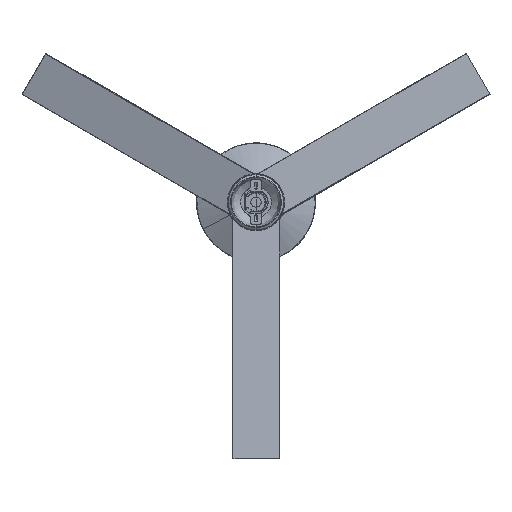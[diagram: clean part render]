
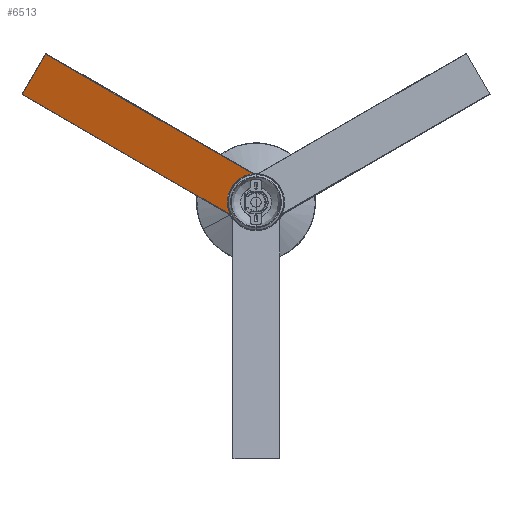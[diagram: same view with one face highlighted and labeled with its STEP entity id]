
A CAD part, top view. The second image highlights one B-rep face of the part: STEP entity #6513.
In plain terms, the highlighted planar face has unit normal (-0.113, -0.195, 0.974).
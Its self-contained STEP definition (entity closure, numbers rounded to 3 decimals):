
#1269=FACE_BOUND('',#8008,.T.);
#1270=FACE_BOUND('',#8009,.T.);
#1271=FACE_BOUND('',#8010,.T.);
#6513=ADVANCED_FACE('',(#7257,#1269,#1270,#1271),#23692,.T.);
#7257=FACE_OUTER_BOUND('',#8007,.T.);
#8007=EDGE_LOOP('',(#8908,#8909,#8910,#8911,#8912,#8913));
#8008=EDGE_LOOP('',(#8914,#8915));
#8009=EDGE_LOOP('',(#8916,#8917));
#8010=EDGE_LOOP('',(#8918,#8919));
#8908=ORIENTED_EDGE('',*,*,#12940,.T.);
#8909=ORIENTED_EDGE('',*,*,#12941,.T.);
#8910=ORIENTED_EDGE('',*,*,#12942,.T.);
#8911=ORIENTED_EDGE('',*,*,#12921,.T.);
#8912=ORIENTED_EDGE('',*,*,#12943,.T.);
#8913=ORIENTED_EDGE('',*,*,#12944,.T.);
#8914=ORIENTED_EDGE('',*,*,#12937,.T.);
#8915=ORIENTED_EDGE('',*,*,#12938,.T.);
#8916=ORIENTED_EDGE('',*,*,#12931,.T.);
#8917=ORIENTED_EDGE('',*,*,#12932,.T.);
#8918=ORIENTED_EDGE('',*,*,#12925,.T.);
#8919=ORIENTED_EDGE('',*,*,#12926,.T.);
#12921=EDGE_CURVE('',#20509,#20511,#16330,.T.);
#12925=EDGE_CURVE('',#20513,#20515,#16332,.T.);
#12926=EDGE_CURVE('',#20515,#20513,#16333,.T.);
#12931=EDGE_CURVE('',#20517,#20519,#16336,.T.);
#12932=EDGE_CURVE('',#20519,#20517,#16337,.T.);
#12937=EDGE_CURVE('',#20521,#20523,#16340,.T.);
#12938=EDGE_CURVE('',#20523,#20521,#16341,.T.);
#12940=EDGE_CURVE('',#20524,#20525,#18075,.T.);
#12941=EDGE_CURVE('',#20525,#20526,#18076,.T.);
#12942=EDGE_CURVE('',#20526,#20509,#18077,.T.);
#12943=EDGE_CURVE('',#20511,#20527,#18078,.T.);
#12944=EDGE_CURVE('',#20527,#20524,#18079,.T.);
#16330=TRIMMED_CURVE($,#17197,(#28649),(#28650),.T.,.CARTESIAN.);
#16332=TRIMMED_CURVE($,#17199,(#28659),(#28660),.T.,.CARTESIAN.);
#16333=TRIMMED_CURVE($,#17200,(#28662),(#28663),.T.,.CARTESIAN.);
#16336=TRIMMED_CURVE($,#17203,(#28675),(#28676),.T.,.CARTESIAN.);
#16337=TRIMMED_CURVE($,#17204,(#28678),(#28679),.T.,.CARTESIAN.);
#16340=TRIMMED_CURVE($,#17207,(#28691),(#28692),.T.,.CARTESIAN.);
#16341=TRIMMED_CURVE($,#17208,(#28694),(#28695),.T.,.CARTESIAN.);
#17197=CIRCLE('',#24511,53.78);
#17199=CIRCLE('',#24513,2.5);
#17200=CIRCLE('',#24514,2.5);
#17203=CIRCLE('',#24517,2.5);
#17204=CIRCLE('',#24518,2.5);
#17207=CIRCLE('',#24521,2.5);
#17208=CIRCLE('',#24522,2.5);
#18075=B_SPLINE_CURVE_WITH_KNOTS('',1,(#28699,#28700),.UNSPECIFIED.,.F.,
 .F.,(2,2),(0.,123.),.UNSPECIFIED.);
#18076=B_SPLINE_CURVE_WITH_KNOTS('',1,(#28701,#28702),.UNSPECIFIED.,.F.,
 .F.,(2,2),(0.,630.),.UNSPECIFIED.);
#18077=B_SPLINE_CURVE_WITH_KNOTS('',1,(#28703,#28704),.UNSPECIFIED.,.F.,
 .F.,(2,2),(0.,16.315),.UNSPECIFIED.);
#18078=B_SPLINE_CURVE_WITH_KNOTS('',1,(#28705,#28706),.UNSPECIFIED.,.F.,
 .F.,(2,2),(0.,14.435),.UNSPECIFIED.);
#18079=B_SPLINE_CURVE_WITH_KNOTS('',1,(#28707,#28708),.UNSPECIFIED.,.F.,
 .F.,(2,2),(0.,630.),.UNSPECIFIED.);
#20509=VERTEX_POINT('',#28610);
#20511=VERTEX_POINT('',#28612);
#20513=VERTEX_POINT('',#28614);
#20515=VERTEX_POINT('',#28616);
#20517=VERTEX_POINT('',#28618);
#20519=VERTEX_POINT('',#28620);
#20521=VERTEX_POINT('',#28622);
#20523=VERTEX_POINT('',#28624);
#20524=VERTEX_POINT('',#28625);
#20525=VERTEX_POINT('',#28626);
#20526=VERTEX_POINT('',#28627);
#20527=VERTEX_POINT('',#28628);
#23692=PLANE('',#24499);
#24499=AXIS2_PLACEMENT_3D('',#28598,#26072,$);
#24511=AXIS2_PLACEMENT_3D($,#28648,#26085,#26086);
#24513=AXIS2_PLACEMENT_3D($,#28658,#26089,#26090);
#24514=AXIS2_PLACEMENT_3D($,#28661,#26091,#26092);
#24517=AXIS2_PLACEMENT_3D($,#28674,#26097,#26098);
#24518=AXIS2_PLACEMENT_3D($,#28677,#26099,#26100);
#24521=AXIS2_PLACEMENT_3D($,#28690,#26105,#26106);
#24522=AXIS2_PLACEMENT_3D($,#28693,#26107,#26108);
#26072=DIRECTION('',(-0.112,-0.195,0.974));
#26085=DIRECTION('',(0.112,0.195,-0.974));
#26086=DIRECTION('',(-0.863,-0.467,-0.193));
#26089=DIRECTION('',(0.112,0.195,-0.974));
#26090=DIRECTION('',(0.487,0.844,0.225));
#26091=DIRECTION('',(0.112,0.195,-0.974));
#26092=DIRECTION('',(-0.487,-0.844,-0.225));
#26097=DIRECTION('',(0.112,0.195,-0.974));
#26098=DIRECTION('',(0.487,0.844,0.225));
#26099=DIRECTION('',(0.112,0.195,-0.974));
#26100=DIRECTION('',(-0.487,-0.844,-0.225));
#26105=DIRECTION('',(0.112,0.195,-0.974));
#26106=DIRECTION('',(0.487,0.844,0.225));
#26107=DIRECTION('',(0.112,0.195,-0.974));
#26108=DIRECTION('',(-0.487,-0.844,-0.225));
#28598=CARTESIAN_POINT('',(5779.687,-10619.52,-19.706));
#28610=CARTESIAN_POINT('',(6603.344,-10703.782,58.525));
#28612=CARTESIAN_POINT('',(6648.287,-10625.938,79.277));
#28614=CARTESIAN_POINT('',(6634.755,-10614.806,79.941));
#28616=CARTESIAN_POINT('',(6632.319,-10619.026,78.816));
#28618=CARTESIAN_POINT('',(6595.109,-10644.021,69.523));
#28620=CARTESIAN_POINT('',(6592.674,-10648.24,68.398));
#28622=CARTESIAN_POINT('',(6589.8,-10692.915,59.135));
#28624=CARTESIAN_POINT('',(6587.364,-10697.134,58.01));
#28625=CARTESIAN_POINT('',(6109.723,-10298.757,82.524));
#28626=CARTESIAN_POINT('',(6049.8,-10402.548,54.855));
#28627=CARTESIAN_POINT('',(6595.396,-10717.548,54.855));
#28628=CARTESIAN_POINT('',(6655.319,-10613.757,82.524));
#28648=CARTESIAN_POINT('',(6649.765,-10678.688,68.901));
#28649=CARTESIAN_POINT('',(6603.344,-10703.782,58.525));
#28650=CARTESIAN_POINT('',(6648.287,-10625.938,79.277));
#28658=CARTESIAN_POINT('',(6633.537,-10616.916,79.378));
#28659=CARTESIAN_POINT('',(6634.755,-10614.806,79.941));
#28660=CARTESIAN_POINT('',(6632.319,-10619.026,78.816));
#28661=CARTESIAN_POINT('',(6633.537,-10616.916,79.378));
#28662=CARTESIAN_POINT('',(6632.319,-10619.026,78.816));
#28663=CARTESIAN_POINT('',(6634.755,-10614.806,79.941));
#28674=CARTESIAN_POINT('',(6593.892,-10646.13,68.961));
#28675=CARTESIAN_POINT('',(6595.109,-10644.021,69.523));
#28676=CARTESIAN_POINT('',(6592.674,-10648.24,68.398));
#28677=CARTESIAN_POINT('',(6593.892,-10646.13,68.961));
#28678=CARTESIAN_POINT('',(6592.674,-10648.24,68.398));
#28679=CARTESIAN_POINT('',(6595.109,-10644.021,69.523));
#28690=CARTESIAN_POINT('',(6588.582,-10695.024,58.572));
#28691=CARTESIAN_POINT('',(6589.8,-10692.915,59.135));
#28692=CARTESIAN_POINT('',(6587.364,-10697.134,58.01));
#28693=CARTESIAN_POINT('',(6588.582,-10695.024,58.572));
#28694=CARTESIAN_POINT('',(6587.364,-10697.134,58.01));
#28695=CARTESIAN_POINT('',(6589.8,-10692.915,59.135));
#28699=CARTESIAN_POINT('',(6109.723,-10298.757,82.524));
#28700=CARTESIAN_POINT('',(6049.8,-10402.548,54.855));
#28701=CARTESIAN_POINT('',(6049.8,-10402.548,54.855));
#28702=CARTESIAN_POINT('',(6595.396,-10717.548,54.855));
#28703=CARTESIAN_POINT('',(6595.396,-10717.548,54.855));
#28704=CARTESIAN_POINT('',(6603.344,-10703.782,58.525));
#28705=CARTESIAN_POINT('',(6648.287,-10625.938,79.277));
#28706=CARTESIAN_POINT('',(6655.319,-10613.757,82.524));
#28707=CARTESIAN_POINT('',(6655.319,-10613.757,82.524));
#28708=CARTESIAN_POINT('',(6109.723,-10298.757,82.524));
